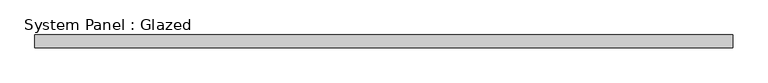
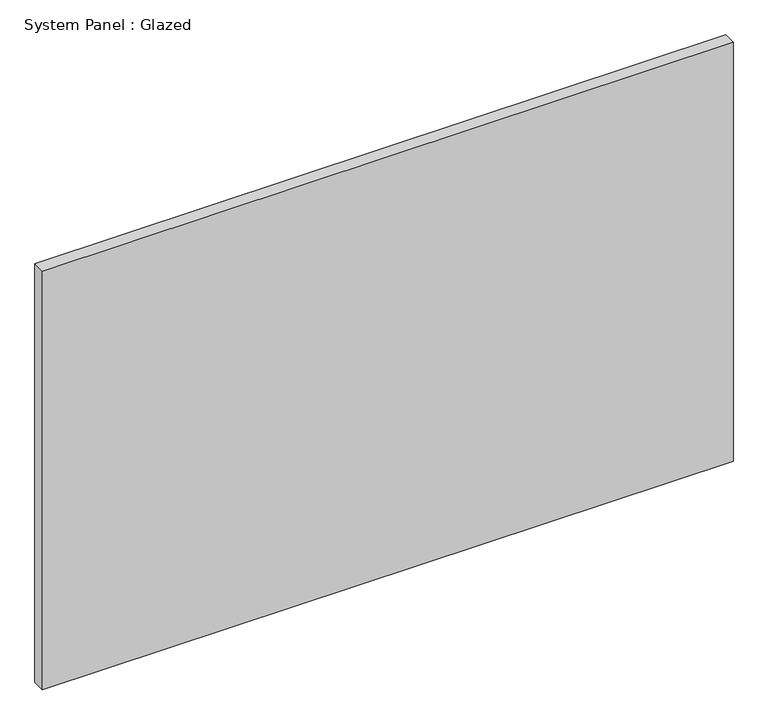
"""IFC4 building model written with IfcOpenShell, lengths in millimetres: plate geometry, System Panel : Glazed."""

from ifc_helpers import new_model, si_unit, origin, origin_with_axes, place, context, project, spatial, polyline, outline, extrude, source, transform, mapped, element, save


def system_panel_glazed_9066613e(model_context):
    return source(origin(), model_context, "Body", "SweptSolid", [
        extrude(outline(polyline([(680.0830663, 19.05), (-680.0830663, 19.05), (-680.0830663, 44.45), (680.0830663, 44.45), (680.0830663, 19.05)])), origin_with_axes(), (0.0, 0.0, 1.0), 871.864222),
    ])


if __name__ == "__main__":
    model = new_model("IFC4")
    model_context = context("Model", 3, world=origin())
    ifc_project = project(units=[si_unit("LENGTHUNIT", "METRE", prefix="MILLI")], contexts=[model_context])
    site = spatial("IfcSite", under=ifc_project)
    building = spatial("IfcBuilding", under=site)
    placement = place(None, origin())
    system_panel_glazed_shape = system_panel_glazed_9066613e(model_context)
    element("IfcPlate", 1, ObjectType="System Panel : Glazed", at=placement, inside=building, context=model_context, shape_type="MappedRepresentation", body=[
        mapped(system_panel_glazed_shape, transform((0.0, 0.0, 0.0), x_axis=(1.0, 0.0, 0.0), y_axis=(0.0, 1.0, 0.0), z_axis=(0.0, 0.0, 1.0))),
    ])
    save(model, "model.ifc")
